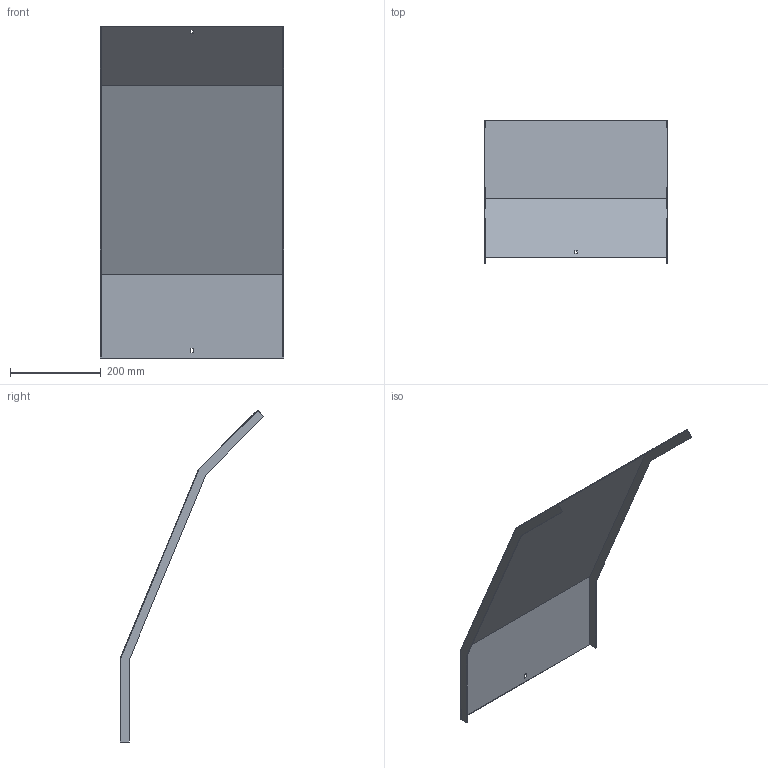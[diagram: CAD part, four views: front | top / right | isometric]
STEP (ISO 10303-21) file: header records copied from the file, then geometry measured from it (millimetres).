
FILE_DESCRIPTION (( 'STEP AP214' ), '1' );
FILE_NAME ('34N5F400.step', '2025-02-21T14:24:44', ( '' ), ( '' ), 'SwSTEP 2.0', 'SolidWorks 2023', '' );
FILE_SCHEMA (( 'AUTOMOTIVE_DESIGN' ));
Length unit declared in the file: millimetre
Products named in the file (1): 34N5F400
Bounding box: 403 x 316.43 x 729.78 mm (x, y, z)
Volume: 538811.6 mm3; surface area: 722236.3 mm2
Topology: 1 solids, 1 shells, 26 faces, 72 edges, 48 vertices
Faces by surface type: plane 26
Entity records: 847 total; most frequent: CARTESIAN_POINT 147, ORIENTED_EDGE 144, DIRECTION 126, VECTOR 72, LINE 72, EDGE_CURVE 72, VERTEX_POINT 48, EDGE_LOOP 30
